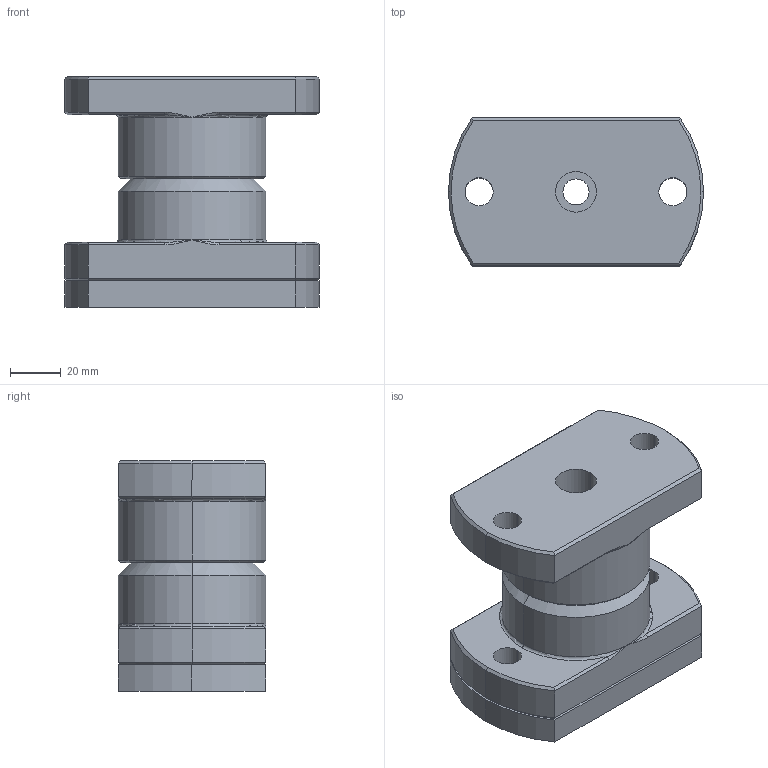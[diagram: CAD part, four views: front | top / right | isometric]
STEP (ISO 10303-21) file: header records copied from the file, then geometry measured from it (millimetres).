
FILE_DESCRIPTION(('CATIA V5 STEP Exchange'),'2;1');
FILE_NAME('C:\Users\Utente\Desktop\IO LAVORO\3D X SITO CF\X 3D SITO CF 27-09-2020\CFCCP\CFCCP10F\CFCCP10F.stp','2020-10-27T19:57:48+00:00',('none'),('none'),'CATIA Version 5 Release 20 GA (IN-10)','CATIA V5 STEP AP203','none');
FILE_SCHEMA(('CONFIG_CONTROL_DESIGN'));
Length unit declared in the file: millimetre
Products named in the file (1): CFCCP10F
Assembly tree (3 placements, depth 2):
  CFCCP10F
    #58
    #841
    #3586
Bounding box: 100 x 58 x 90.5 mm (x, y, z)
Volume: 325199.5 mm3; surface area: 58731.6 mm2
Topology: 3 solids, 3 shells, 128 faces, 412 edges, 280 vertices
Faces by surface type: cylinder 48, cone 36, plane 28, bspline 8, torus 8
Entity records: 6012 total; most frequent: CARTESIAN_POINT 2610, ORIENTED_EDGE 800, DIRECTION 495, EDGE_CURVE 400, VERTEX_POINT 280, AXIS2_PLACEMENT_3D 254, B_SPLINE_CURVE_WITH_KNOTS 157, EDGE_LOOP 152
